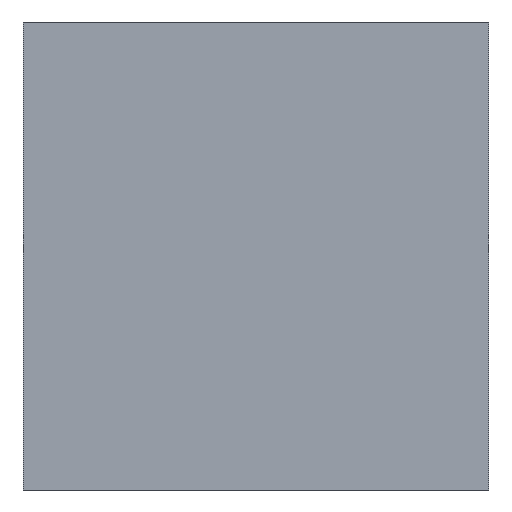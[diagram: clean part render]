
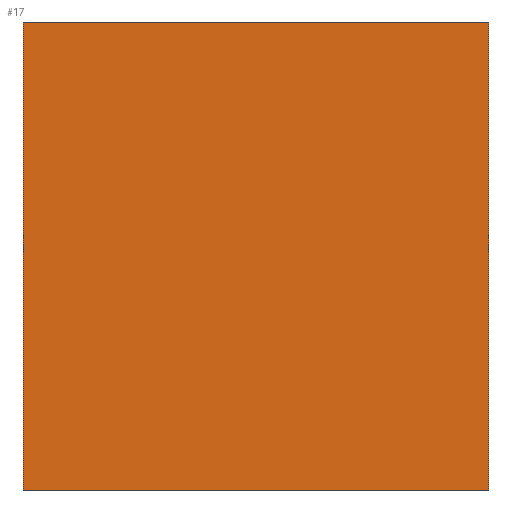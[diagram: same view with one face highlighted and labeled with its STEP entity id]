
A CAD part, left-side view. The second image highlights one B-rep face of the part: STEP entity #17.
In plain terms, the highlighted planar face has unit normal (-1, 0, 0).
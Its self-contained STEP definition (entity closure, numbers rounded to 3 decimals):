
#17 = ADVANCED_FACE('',(#18),#52,.T.);
#18 = FACE_BOUND('',#19,.T.);
#19 = EDGE_LOOP('',(#20,#30,#38,#46));
#20 = ORIENTED_EDGE('',*,*,#21,.F.);
#21 = EDGE_CURVE('',#22,#24,#26,.T.);
#22 = VERTEX_POINT('',#23);
#23 = CARTESIAN_POINT('',(574.,384.,2.5));
#24 = VERTEX_POINT('',#25);
#25 = CARTESIAN_POINT('',(574.,409.238,2.5));
#26 = LINE('',#27,#28);
#27 = CARTESIAN_POINT('',(574.,384.,2.5));
#28 = VECTOR('',#29,1.);
#29 = DIRECTION('',(0.,1.,0.));
#30 = ORIENTED_EDGE('',*,*,#31,.T.);
#31 = EDGE_CURVE('',#22,#32,#34,.T.);
#32 = VERTEX_POINT('',#33);
#33 = CARTESIAN_POINT('',(574.,384.,27.9));
#34 = LINE('',#35,#36);
#35 = CARTESIAN_POINT('',(574.,384.,2.5));
#36 = VECTOR('',#37,1.);
#37 = DIRECTION('',(0.,0.,1.));
#38 = ORIENTED_EDGE('',*,*,#39,.T.);
#39 = EDGE_CURVE('',#32,#40,#42,.T.);
#40 = VERTEX_POINT('',#41);
#41 = CARTESIAN_POINT('',(574.,409.238,27.9));
#42 = LINE('',#43,#44);
#43 = CARTESIAN_POINT('',(574.,389.81,27.9));
#44 = VECTOR('',#45,1.);
#45 = DIRECTION('',(0.,1.,0.));
#46 = ORIENTED_EDGE('',*,*,#47,.F.);
#47 = EDGE_CURVE('',#24,#40,#48,.T.);
#48 = LINE('',#49,#50);
#49 = CARTESIAN_POINT('',(574.,409.238,4.762));
#50 = VECTOR('',#51,1.);
#51 = DIRECTION('',(0.,0.,1.));
#52 = PLANE('',#53);
#53 = AXIS2_PLACEMENT_3D('',#54,#55,#56);
#54 = CARTESIAN_POINT('',(574.,396.619,16.25));
#55 = DIRECTION('',(-1.,-0.,-0.));
#56 = DIRECTION('',(0.,0.,-1.));
